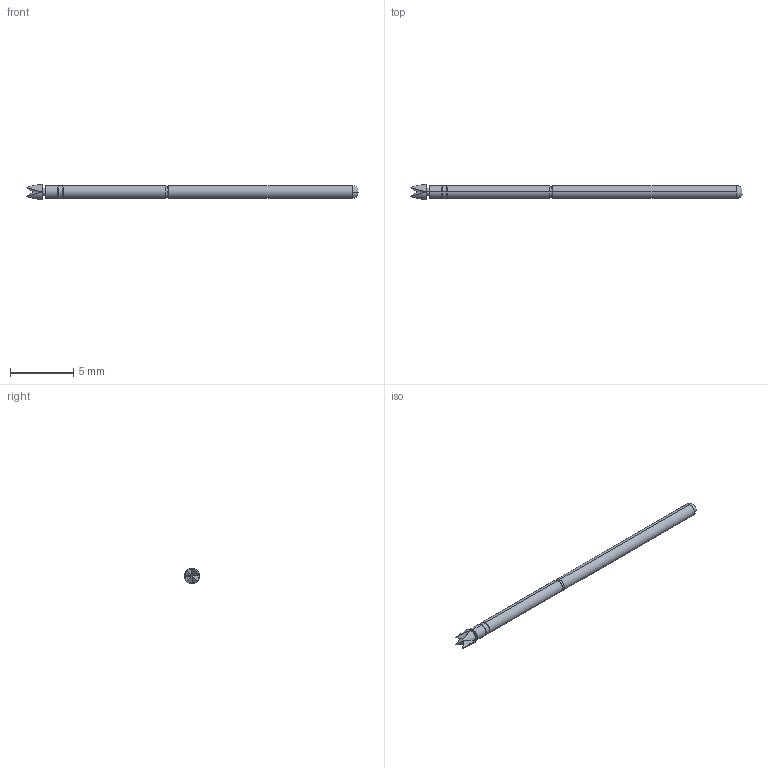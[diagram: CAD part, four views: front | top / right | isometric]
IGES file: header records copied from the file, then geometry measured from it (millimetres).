
Start section: SolidWorks IGES file using analytic representation for surfaces
Global section: file name: Y:\HomeCPG\probe solid model mockups\Solidworks models\Non-catalog IGES files\SPL-01L-039 IGES files\SPL-01L-039 Full.IGS; native system: SolidWorks 2006 by SolidWorks Corporation; preprocessor: SolidWorks 2006 by SolidWorks Corporation; author: tsakatani; date: 080131.110820; units: inch
Bounding box: 26.16 x 1.19 x 1.19 mm (x, y, z)
Surface area: 86.1 mm2 (no closed solid volume)
Topology: 0 solids, 0 shells, 33 faces, 226 edges, 226 vertices
Faces by surface type: revolution 18, bspline 15
